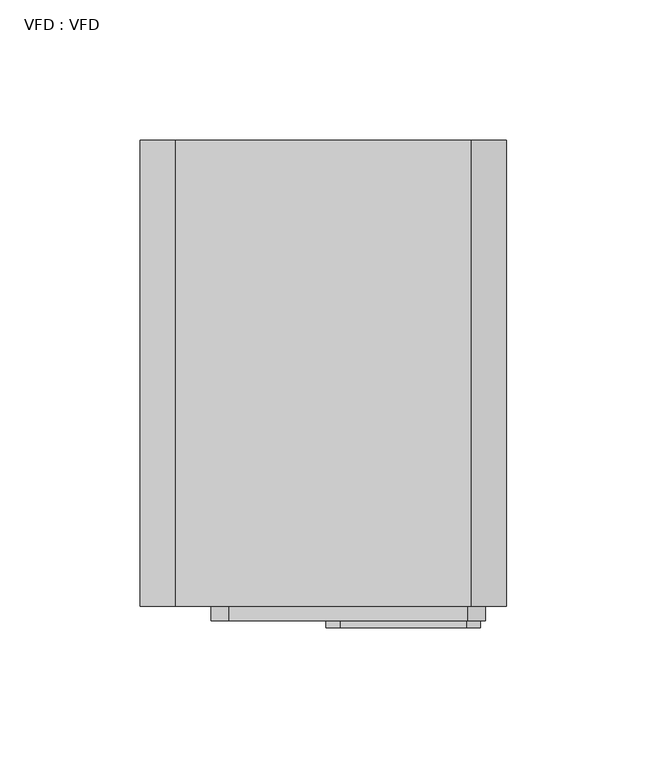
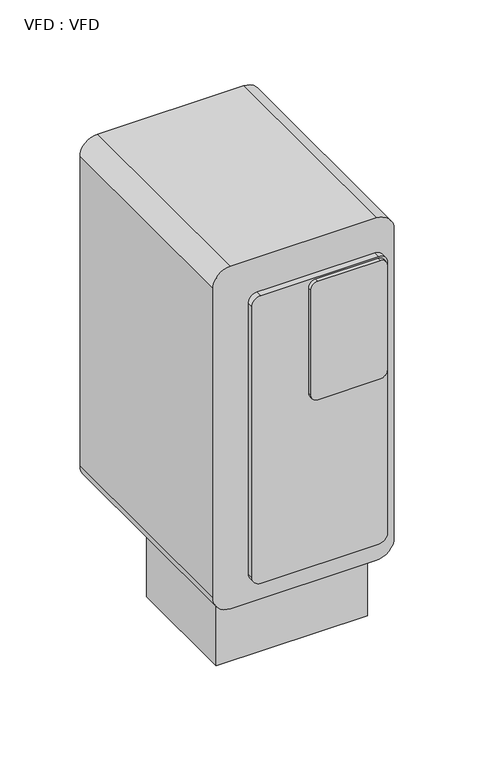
"""IFC4 building model written with IfcOpenShell, lengths in millimetres: proxy geometry, VFD : VFD."""

import ifcopenshell
import ifcopenshell.guid

model = None  # the IFC model being written
_history = None  # IfcOwnerHistory: only IFC2X3 demands one
_inside = {}  # id of a spatial element -> (the spatial element, [elements in it])
_under = {}  # id of a project, library or spatial element -> (it, [spatial elements below it])
_declared = {}  # id of a project -> (the project, [libraries it declares])
_typed = {}  # id of a type object -> (the type object, [elements of that type])
_made_of = {}  # id of a material, layer set ... -> (it, [elements and type objects made of it])


def new_model(schema):
    """Start an empty IFC model of exactly this schema.

    Asked for "IFC4X3", IfcOpenShell would pick the latest addendum, in which some entities
    have other attributes; the version numbers below select the first issue.
    IFC2X3 requires an IfcOwnerHistory on every rooted entity: one is made here for all.
    """
    global model, _history
    if schema == "IFC4X3":
        model = ifcopenshell.file(schema_version=(4, 3, 0, 0))
    else:
        model = ifcopenshell.file(schema=schema)
    _inside.clear()
    _under.clear()
    _declared.clear()
    _typed.clear()
    _made_of.clear()
    _history = None
    if model.schema == "IFC2X3":
        org = make("IfcOrganization", Name="unknown")
        user = make(
            "IfcPersonAndOrganization",
            ThePerson=make("IfcPerson", FamilyName="unknown"),
            TheOrganization=org,
        )
        app = make(
            "IfcApplication",
            ApplicationDeveloper=org,
            Version="unknown",
            ApplicationFullName="unknown",
            ApplicationIdentifier="unknown",
        )
        _history = make(
            "IfcOwnerHistory",
            OwningUser=user,
            OwningApplication=app,
            ChangeAction="ADDED",
            CreationDate=0,
        )
    return model


def make(cls, **values):
    """One entity of the class cls with the attributes given. An attribute that is None is left unset."""
    return model.create_entity(
        cls, **{name: value for name, value in values.items() if value is not None}
    )


def rooted(cls, **values):
    """An entity with a GlobalId (a new one), such as an element, a storey or a relation."""
    return make(cls, GlobalId=ifcopenshell.guid.new(), OwnerHistory=_history, **values)


def si_unit(unit_type, name, prefix=None):
    """IfcSIUnit, for example si_unit("LENGTHUNIT", "METRE", prefix="MILLI")."""
    return make("IfcSIUnit", UnitType=unit_type, Prefix=prefix, Name=name)


def assignment(units):
    """IfcUnitAssignment: the units of a project."""
    return None if units is None else make("IfcUnitAssignment", Units=units)


def point(xyz):
    """IfcCartesianPoint."""
    return None if xyz is None else make("IfcCartesianPoint", Coordinates=xyz)


def direction(xyz):
    """IfcDirection."""
    return None if xyz is None else make("IfcDirection", DirectionRatios=xyz)


def frame(location, z_axis=None, x_axis=None):
    """IfcAxis2Placement3D, a coordinate frame: its origin and axes. An axis left out is left unset."""
    return make(
        "IfcAxis2Placement3D",
        Location=point(location),
        Axis=direction(z_axis),
        RefDirection=direction(x_axis),
    )


def frame_2d(location, x_axis=None):
    """IfcAxis2Placement2D, a coordinate frame in the plane: its origin and x axis."""
    return make(
        "IfcAxis2Placement2D", Location=point(location), RefDirection=direction(x_axis)
    )


def origin():
    """The frame at (0, 0, 0) with its axes left unset."""
    return frame((0.0, 0.0, 0.0))


def origin_with_axes():
    """The frame at (0, 0, 0) with the z axis (0, 0, 1) and the x axis (1, 0, 0) written out."""
    return frame((0.0, 0.0, 0.0), z_axis=(0.0, 0.0, 1.0), x_axis=(1.0, 0.0, 0.0))


def place(relative_to, where):
    """IfcLocalPlacement: puts the frame where relative to a parent placement (None: the world)."""
    return make(
        "IfcLocalPlacement", PlacementRelTo=relative_to, RelativePlacement=where
    )


def context(
    kind, dimensions, precision=None, world=None, true_north=None, identifier=None
):
    """IfcGeometricRepresentationContext, for example the 3D "Model" context."""
    return make(
        "IfcGeometricRepresentationContext",
        ContextIdentifier=identifier,
        ContextType=kind,
        CoordinateSpaceDimension=dimensions,
        Precision=precision,
        WorldCoordinateSystem=world,
        TrueNorth=true_north,
    )


def project(units=None, contexts=None):
    """IfcProject with its units and contexts."""
    return rooted(
        "IfcProject",
        Name="project",
        RepresentationContexts=contexts,
        UnitsInContext=assignment(units),
    )


def spatial(cls, under=None, at=None, **own):
    """A site, building, storey or space (cls), placed at a placement, below another one or the project."""
    s = rooted(cls, ObjectPlacement=at, **own)
    if under is not None:
        _under.setdefault(under.id(), (under, []))[1].append(s)
    return s


def polyline(points):
    """IfcPolyline through the points."""
    return make("IfcPolyline", Points=[point(p) for p in points])


def circle_curve(where, radius):
    """IfcCircle in the frame where."""
    return make("IfcCircle", Position=where, Radius=radius)


def trimmed(basis, trim1, trim2, sense, master):
    """IfcTrimmedCurve: the piece of a basis curve between two trims."""
    return make(
        "IfcTrimmedCurve",
        BasisCurve=basis,
        Trim1=trim1,
        Trim2=trim2,
        SenseAgreement=sense,
        MasterRepresentation=master,
    )


def segment(curve, same_sense, transition):
    """IfcCompositeCurveSegment."""
    return make(
        "IfcCompositeCurveSegment",
        Transition=transition,
        SameSense=same_sense,
        ParentCurve=curve,
    )


def composite_curve(segments, self_intersect=None):
    """IfcCompositeCurve: segments joined end to end."""
    return make("IfcCompositeCurve", Segments=segments, SelfIntersect=self_intersect)


def outline(outer, holes=None, kind="AREA"):
    """IfcArbitraryClosedProfileDef: a profile drawn as a closed curve; with holes, ...WithVoids."""
    if holes is None:
        return make("IfcArbitraryClosedProfileDef", ProfileType=kind, OuterCurve=outer)
    return make(
        "IfcArbitraryProfileDefWithVoids",
        ProfileType=kind,
        OuterCurve=outer,
        InnerCurves=holes,
    )


def extrude(swept, where, along, depth):
    """IfcExtrudedAreaSolid: the profile swept, set in the frame where, extruded along a direction by depth."""
    return make(
        "IfcExtrudedAreaSolid",
        SweptArea=swept,
        Position=where,
        ExtrudedDirection=direction(along),
        Depth=depth,
    )


def shape(context_of_items, identifier, shape_type, items):
    """IfcShapeRepresentation: the items that make up one representation, for example the "Body"."""
    return make(
        "IfcShapeRepresentation",
        ContextOfItems=context_of_items,
        RepresentationIdentifier=identifier,
        RepresentationType=shape_type,
        Items=items,
    )


def source(mapping_origin, context_of_items, identifier, shape_type, items):
    """IfcRepresentationMap: a shape defined once, which mapped items show again and again."""
    return make(
        "IfcRepresentationMap",
        MappingOrigin=mapping_origin,
        MappedRepresentation=shape(context_of_items, identifier, shape_type, items),
    )


def transform(
    local_origin,
    x_axis=None,
    y_axis=None,
    z_axis=None,
    scale=None,
    scale2=None,
    scale3=None,
    uniform=True,
):
    """IfcCartesianTransformationOperator3D, or its non-uniform kind. x_axis, y_axis, z_axis: its Axis1, 2, 3."""
    if uniform:
        return make(
            "IfcCartesianTransformationOperator3D",
            Axis1=direction(x_axis),
            Axis2=direction(y_axis),
            LocalOrigin=point(local_origin),
            Scale=scale,
            Axis3=direction(z_axis),
        )
    return make(
        "IfcCartesianTransformationOperator3DnonUniform",
        Axis1=direction(x_axis),
        Axis2=direction(y_axis),
        LocalOrigin=point(local_origin),
        Scale=scale,
        Axis3=direction(z_axis),
        Scale2=scale2,
        Scale3=scale3,
    )


def mapped(mapping_source, mapping_target):
    """IfcMappedItem: shows the shape of a source again, moved by a transform."""
    return make(
        "IfcMappedItem", MappingSource=mapping_source, MappingTarget=mapping_target
    )


def made_of(thing, what):
    """Note that an element or type object is made of a material, layer set ...; save() writes the relation."""
    if what is not None:
        _made_of.setdefault(what.id(), (what, []))[1].append(thing)
    return thing


def element(
    cls,
    number,
    at=None,
    inside=None,
    cuts=None,
    type_object=None,
    material=None,
    context=None,
    identifier="Body",
    shape_type=None,
    held_by="IfcProductDefinitionShape",
    body=None,
    shapes=None,
    **own,
):
    """One element of the class cls, such as IfcWall. Its Tag is "e" and its number.

    at: its placement. inside: the storey or other place that contains it. cuts: it is an
    opening in that element (IfcRelVoidsElement). A single representation is given by context,
    identifier, shape_type and body (its items); several are given by shapes. held_by: the class
    of the entity that holds the representations. save() writes the other relations.
    """
    e = rooted(cls, Tag="e%d" % number, ObjectPlacement=at, **own)
    if body is not None:
        shapes = [shape(context, identifier, shape_type, body)]
    if shapes is not None:
        e.Representation = make(held_by, Representations=shapes)
    if inside is not None:
        _inside.setdefault(inside.id(), (inside, []))[1].append(e)
    if cuts is not None:
        rooted(
            "IfcRelVoidsElement", RelatingBuildingElement=cuts, RelatedOpeningElement=e
        )
    if type_object is not None:
        _typed.setdefault(type_object.id(), (type_object, []))[1].append(e)
    return made_of(e, material)


def aggregate(whole, parts):
    """IfcRelAggregates: a whole, such as a stair, and the parts it consists of."""
    return rooted("IfcRelAggregates", RelatingObject=whole, RelatedObjects=parts)


def save(model, path):
    """Write the relations noted so far, then the file.

    IfcRelAggregates (storeys below a building ...), IfcRelContainedInSpatialStructure (elements
    in a storey), IfcRelDefinesByType, IfcRelAssociatesMaterial and IfcRelDeclares: one each for
    every whole, place, type object, material and project.
    """
    for whole, parts in _under.values():
        aggregate(whole, parts)
    for where, things in _inside.values():
        rooted(
            "IfcRelContainedInSpatialStructure",
            RelatedElements=things,
            RelatingStructure=where,
        )
    for kind, things in _typed.values():
        rooted("IfcRelDefinesByType", RelatedObjects=things, RelatingType=kind)
    for what, things in _made_of.values():
        rooted("IfcRelAssociatesMaterial", RelatedObjects=things, RelatingMaterial=what)
    for by, libraries in _declared.values():
        rooted("IfcRelDeclares", RelatingContext=by, RelatedDefinitions=libraries)
    model.write(path)


def vfd_vfd_badebb43(model_context):
    return source(origin(), model_context, "Body", "SweptSolid", [
        extrude(outline(polyline([(49.8498135, 14.150622), (-59.3277426, 14.150622), (-59.3277426, 101.049693), (49.8498135, 101.049693), (49.8498135, 14.150622)])), origin_with_axes(), (0.0, 0.0, 1.0), 51.4788823),
        extrude(outline(composite_curve([segment(trimmed(circle_curve(frame_2d((64.1788823, 48.26)), 12.7), [point((51.4788823, 48.26))], [point((64.1788823, 60.96))], False, "CARTESIAN"), True, "CONTINUOUS"), segment(polyline([(64.1788823, 60.96), (299.7997777, 60.96)]), True, "CONTINUOUS"), segment(trimmed(circle_curve(frame_2d((299.7997777, 48.26)), 12.7), [point((299.7997777, 60.96))], [point((312.4997777, 48.26))], False, "CARTESIAN"), True, "CONTINUOUS"), segment(polyline([(312.4997777, 48.26), (312.4997777, -57.15)]), True, "CONTINUOUS"), segment(trimmed(circle_curve(frame_2d((299.7997777, -57.15)), 12.7), [point((312.4997777, -57.15))], [point((299.7997777, -69.85))], False, "CARTESIAN"), True, "CONTINUOUS"), segment(polyline([(299.7997777, -69.85), (64.1788823, -69.85)]), True, "CONTINUOUS"), segment(trimmed(circle_curve(frame_2d((64.1788823, -57.15)), 12.7), [point((64.1788823, -69.85))], [point((51.4788823, -57.15))], False, "CARTESIAN"), True, "CONTINUOUS"), segment(polyline([(51.4788823, -57.15), (51.4788823, 48.26)]), True, "CONTINUOUS")], self_intersect=False)), frame((0.0, 0.0, 0.0), z_axis=(0.0, 1.0, 0.0), x_axis=(0.0, 0.0, 1.0)), (0.0, 0.0, 1.0), 166.2159075),
        extrude(outline(composite_curve([segment(polyline([(285.1864491, 46.6046194), (285.1864491, 1.5895853)]), True, "CONTINUOUS"), segment(trimmed(circle_curve(frame_2d((280.1064491, 1.5895853)), 5.08), [point((285.1864491, 1.5895853))], [point((280.1064491, -3.4904147))], False, "CARTESIAN"), True, "CONTINUOUS"), segment(polyline([(280.1064491, -3.4904147), (200.0454191, -3.4904147)]), True, "CONTINUOUS"), segment(trimmed(circle_curve(frame_2d((200.0454191, 1.5895853)), 5.08), [point((200.0454191, -3.4904147))], [point((194.9654191, 1.5895853))], False, "CARTESIAN"), True, "CONTINUOUS"), segment(polyline([(194.9654191, 1.5895853), (194.9654191, 46.6046194)]), True, "CONTINUOUS"), segment(trimmed(circle_curve(frame_2d((200.0454191, 46.6046194)), 5.08), [point((194.9654191, 46.6046194))], [point((200.0454191, 51.6846194))], False, "CARTESIAN"), True, "CONTINUOUS"), segment(polyline([(200.0454191, 51.6846194), (280.1064491, 51.6846194)]), True, "CONTINUOUS"), segment(trimmed(circle_curve(frame_2d((280.1064491, 46.6046194)), 5.08), [point((280.1064491, 51.6846194))], [point((285.1864491, 46.6046194))], False, "CARTESIAN"), True, "CONTINUOUS")], self_intersect=False)), frame((0.0, -7.62, 0.0), z_axis=(0.0, 1.0, 0.0), x_axis=(0.0, 0.0, 1.0)), (0.0, 0.0, 1.0), 7.62),
        extrude(outline(composite_curve([segment(polyline([(286.5997777, 46.9430867), (286.5997777, -38.1)]), True, "CONTINUOUS"), segment(trimmed(circle_curve(frame_2d((280.2497777, -38.1)), 6.35), [point((286.5997777, -38.1))], [point((280.2497777, -44.45))], False, "CARTESIAN"), True, "CONTINUOUS"), segment(polyline([(280.2497777, -44.45), (73.6786578, -44.45)]), True, "CONTINUOUS"), segment(trimmed(circle_curve(frame_2d((73.6786578, -38.1)), 6.35), [point((73.6786578, -44.45))], [point((67.3286578, -38.1001411))], False, "CARTESIAN"), True, "CONTINUOUS"), segment(polyline([(67.3286578, -38.1001411), (67.3267676, 46.9429456)]), True, "CONTINUOUS"), segment(trimmed(circle_curve(frame_2d((73.6767676, 46.9430867)), 6.35), [point((67.3267676, 46.9429456))], [point((73.6767676, 53.2930867))], False, "CARTESIAN"), True, "CONTINUOUS"), segment(polyline([(73.6767676, 53.2930867), (280.2497777, 53.2930867)]), True, "CONTINUOUS"), segment(trimmed(circle_curve(frame_2d((280.2497777, 46.9430867)), 6.35), [point((280.2497777, 53.2930867))], [point((286.5997777, 46.9430867))], False, "CARTESIAN"), True, "CONTINUOUS")], self_intersect=False)), frame((0.0, -5.08, 0.0), z_axis=(0.0, 1.0, 0.0), x_axis=(0.0, 0.0, 1.0)), (0.0, 0.0, 1.0), 5.08),
    ])


if __name__ == "__main__":
    model = new_model("IFC4")
    model_context = context("Model", 3, world=origin())
    ifc_project = project(units=[si_unit("LENGTHUNIT", "METRE", prefix="MILLI")], contexts=[model_context])
    site = spatial("IfcSite", under=ifc_project)
    building = spatial("IfcBuilding", under=site)
    placement = place(None, origin())
    vfd_vfd_shape = vfd_vfd_badebb43(model_context)
    element("IfcBuildingElementProxy", 1, Name="VFD : VFD", ObjectType="VFD : VFD", at=placement, inside=building, context=model_context, shape_type="MappedRepresentation", body=[
        mapped(vfd_vfd_shape, transform((0.0, 0.0, 0.0), x_axis=(1.0, 0.0, 0.0), y_axis=(0.0, 1.0, 0.0), z_axis=(0.0, 0.0, 1.0))),
    ])
    save(model, "model.ifc")
